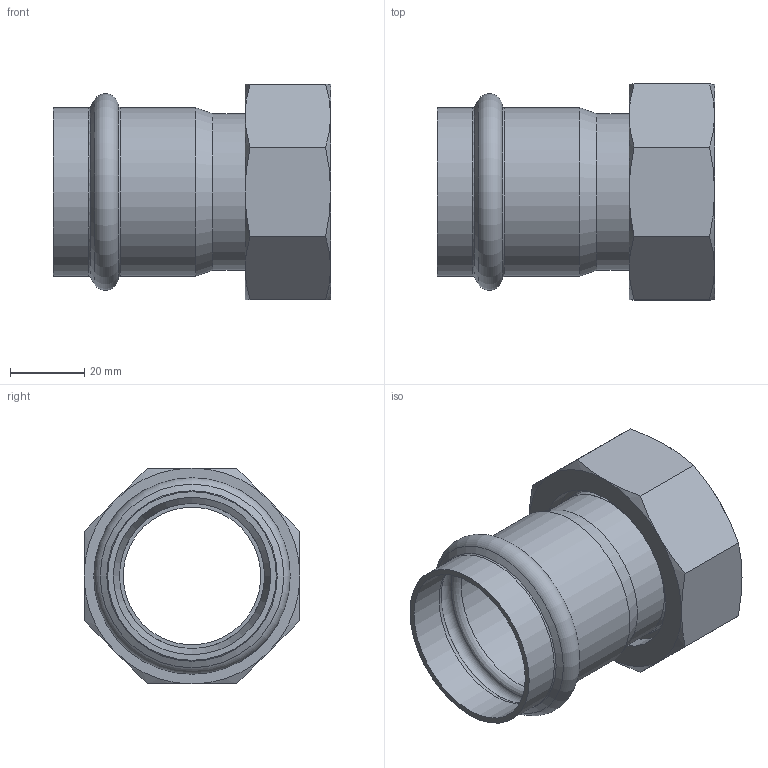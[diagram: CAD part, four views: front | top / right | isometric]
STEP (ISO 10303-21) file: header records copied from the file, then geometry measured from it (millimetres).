
FILE_DESCRIPTION((''),'2;1');
FILE_NAME('G:\Nirosan-Schmiedefeld\Technics\CAD\Bauteile VA\042\69359mms42134(1).stp','2011-10-12T07:51:27',('herberg'),(''),'Autodesk Inventor 2009','Autodesk Inventor 2009','');
FILE_SCHEMA(('AUTOMOTIVE_DESIGN { 1 0 10303 214 1 1 1 1 }'));
Length unit declared in the file: millimetre
Products named in the file (5): 69359mms42134(1); HM_6924342(2); R42134(2); FD_5037_EPDM(0); MS_AM42134(1)
Assembly tree (4 placements, depth 2):
  69359mms42134(1)
    HM_6924342(2)
    R42134(2)
    FD_5037_EPDM(0)
    MS_AM42134(1)
Bounding box: 74.5 x 58 x 58 mm (x, y, z)
Volume: 36316.6 mm3; surface area: 31907.8 mm2
Topology: 4 solids, 4 shells, 59 faces, 117 edges, 68 vertices
Faces by surface type: cone 21, plane 17, cylinder 11, bspline 8, torus 2
Full cylindrical faces by diameter (mm): 37 x1, 39 x2, 42 x2, 42.3 x2, 45.3 x2, 50 x2
Entity records: 1731 total; most frequent: CARTESIAN_POINT 545, DIRECTION 228, ORIENTED_EDGE 180, AXIS2_PLACEMENT_3D 110, EDGE_LOOP 94, EDGE_CURVE 90, VERTEX_POINT 66, FACE_OUTER_BOUND 59
